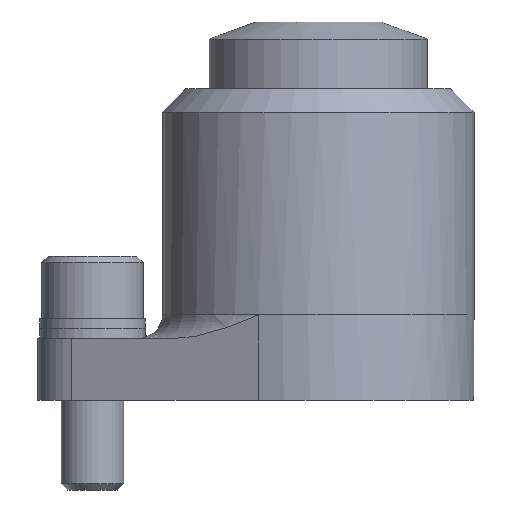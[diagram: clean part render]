
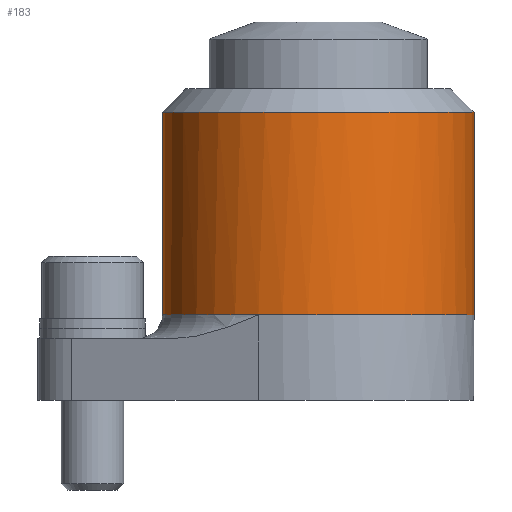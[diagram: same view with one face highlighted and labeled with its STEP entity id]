
A CAD part, front view. The second image highlights one B-rep face of the part: STEP entity #183.
In plain terms, the highlighted cylindrical face has radius 20 mm (diameter 40 mm), a partial arc.
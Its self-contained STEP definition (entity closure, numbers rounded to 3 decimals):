
#183=ADVANCED_FACE('',(#294),#256,.T.);
#256=CYLINDRICAL_SURFACE('',#1291,20.);
#294=FACE_OUTER_BOUND('',#356,.T.);
#356=EDGE_LOOP('',(#558,#559,#560,#561,#562));
#440=CIRCLE('',#1266,20.);
#458=CIRCLE('',#1289,20.);
#459=CIRCLE('',#1290,20.);
#558=ORIENTED_EDGE('',*,*,#959,.T.);
#559=ORIENTED_EDGE('',*,*,#984,.T.);
#560=ORIENTED_EDGE('',*,*,#985,.F.);
#561=ORIENTED_EDGE('',*,*,#982,.F.);
#562=ORIENTED_EDGE('',*,*,#986,.T.);
#854=VERTEX_POINT('',#1827);
#855=VERTEX_POINT('',#1829);
#873=VERTEX_POINT('',#1873);
#874=VERTEX_POINT('',#1875);
#875=VERTEX_POINT('',#1877);
#959=EDGE_CURVE('',#855,#854,#440,.T.);
#982=EDGE_CURVE('',#873,#874,#1127,.T.);
#984=EDGE_CURVE('',#854,#875,#1128,.T.);
#985=EDGE_CURVE('',#874,#875,#458,.T.);
#986=EDGE_CURVE('',#873,#855,#459,.T.);
#1127=LINE('',#1874,#1199);
#1128=LINE('',#1878,#1200);
#1199=VECTOR('',#1479,1.);
#1200=VECTOR('',#1482,1.);
#1266=AXIS2_PLACEMENT_3D('',#1828,#1431,#1432);
#1289=AXIS2_PLACEMENT_3D('',#1880,#1485,#1486);
#1290=AXIS2_PLACEMENT_3D('',#1881,#1487,#1488);
#1291=AXIS2_PLACEMENT_3D('',#1882,#1489,#1490);
#1431=DIRECTION('',(0.,0.,1.));
#1432=DIRECTION('',(-0.477,-0.879,0.));
#1479=DIRECTION('',(0.,0.,1.));
#1482=DIRECTION('',(0.,0.,1.));
#1485=DIRECTION('',(0.,0.,1.));
#1486=DIRECTION('',(0.,1.,0.));
#1487=DIRECTION('',(0.,0.,1.));
#1488=DIRECTION('',(0.,1.,0.));
#1489=DIRECTION('',(0.,0.,1.));
#1490=DIRECTION('',(0.,-1.,0.));
#1827=CARTESIAN_POINT('',(20.,0.,11.));
#1828=CARTESIAN_POINT('',(0.,0.,11.));
#1829=CARTESIAN_POINT('',(-7.692,-18.462,11.));
#1873=CARTESIAN_POINT('',(-20.,0.,11.));
#1874=CARTESIAN_POINT('',(-20.,0.,37.));
#1875=CARTESIAN_POINT('',(-20.,0.,37.));
#1877=CARTESIAN_POINT('',(20.,0.,37.));
#1878=CARTESIAN_POINT('',(20.,0.,37.));
#1880=CARTESIAN_POINT('',(0.,0.,37.));
#1881=CARTESIAN_POINT('',(0.,0.,11.));
#1882=CARTESIAN_POINT('',(0.,0.,0.));
